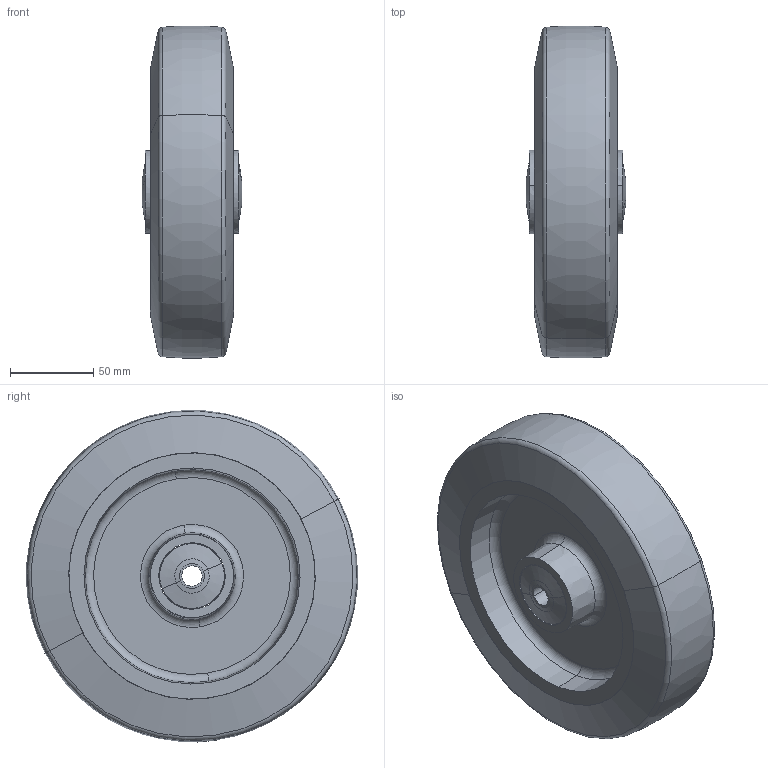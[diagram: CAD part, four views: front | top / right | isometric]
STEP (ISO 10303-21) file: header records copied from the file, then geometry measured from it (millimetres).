
FILE_DESCRIPTION (( 'STEP AP203' ), '1' );
FILE_NAME ('400143_STEP.STEP', '2011-10-21T11:43:48', ( '' ), ( '' ), 'SwSTEP 2.0', 'SolidWorks 2011', '' );
FILE_SCHEMA (( 'CONFIG_CONTROL_DESIGN' ));
Length unit declared in the file: millimetre
Products named in the file (1): 400143_STEP
Bounding box: 59.9 x 199.71 x 199.71 mm (x, y, z)
Surface area: 158829.2 mm2 (no closed solid volume)
Topology: 0 solids, 4 shells, 62 faces, 130 edges, 76 vertices
Faces by surface type: cone 28, torus 14, cylinder 12, plane 8
Entity records: 1740 total; most frequent: DIRECTION 346, CARTESIAN_POINT 269, ORIENTED_EDGE 248, AXIS2_PLACEMENT_3D 153, EDGE_CURVE 130, CIRCLE 90, VERTEX_POINT 76, EDGE_LOOP 70
